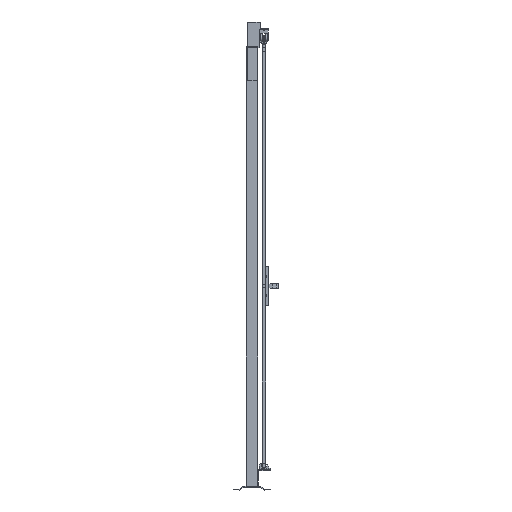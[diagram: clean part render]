
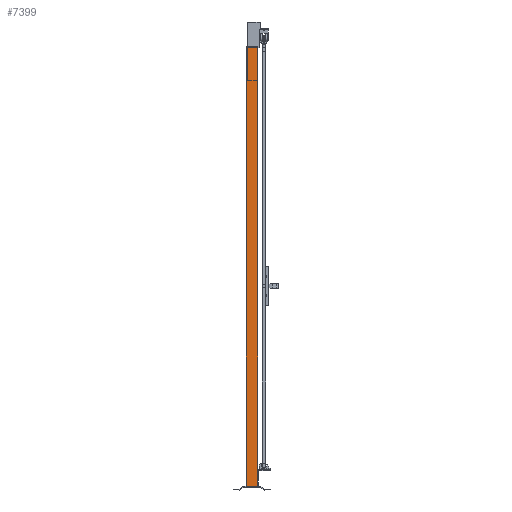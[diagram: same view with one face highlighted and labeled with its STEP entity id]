
A CAD part, left-side view. The second image highlights one B-rep face of the part: STEP entity #7399.
In plain terms, the highlighted planar face has unit normal (-1, 0, 0).
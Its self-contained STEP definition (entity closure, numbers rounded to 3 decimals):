
#629=FACE_OUTER_BOUND('',#1151,.T.);
#1151=EDGE_LOOP('',(#4390,#4391,#4392,#4393));
#1716=VERTEX_POINT('',#14724);
#1717=VERTEX_POINT('',#14726);
#1720=VERTEX_POINT('',#14733);
#1721=VERTEX_POINT('',#14735);
#2808=EDGE_CURVE('',#1716,#1717,#8349,.T.);
#2812=EDGE_CURVE('',#1720,#1721,#8353,.T.);
#2814=EDGE_CURVE('',#1717,#1720,#8355,.T.);
#2816=EDGE_CURVE('',#1716,#1721,#8357,.T.);
#4390=ORIENTED_EDGE('',*,*,#2816,.T.);
#4391=ORIENTED_EDGE('',*,*,#2812,.F.);
#4392=ORIENTED_EDGE('',*,*,#2814,.F.);
#4393=ORIENTED_EDGE('',*,*,#2808,.F.);
#6925=PLANE('',#10834);
#7399=ADVANCED_FACE('',(#629),#6925,.F.);
#8349=LINE('',#14727,#9642);
#8353=LINE('',#14736,#9646);
#8355=LINE('',#14739,#9648);
#8357=LINE('',#14742,#9650);
#9642=VECTOR('',#11794,1.);
#9646=VECTOR('',#11800,1.);
#9648=VECTOR('',#11804,1.);
#9650=VECTOR('',#11808,1.);
#10834=AXIS2_PLACEMENT_3D('',#14741,#11806,#11807);
#11794=DIRECTION('',(0.,-1.,0.));
#11800=DIRECTION('',(0.,1.,0.));
#11804=DIRECTION('',(0.,0.,-1.));
#11806=DIRECTION('center_axis',(1.,0.,0.));
#11807=DIRECTION('ref_axis',(0.,0.,-1.));
#11808=DIRECTION('',(0.,0.,-1.));
#14724=CARTESIAN_POINT('',(-30.,30.,2320.));
#14726=CARTESIAN_POINT('',(-30.,-30.,2320.));
#14727=CARTESIAN_POINT('',(-30.,0.,2320.));
#14733=CARTESIAN_POINT('',(-30.,-30.,20.));
#14735=CARTESIAN_POINT('',(-30.,30.,20.));
#14736=CARTESIAN_POINT('',(-30.,0.,20.));
#14739=CARTESIAN_POINT('',(-30.,-30.,1170.));
#14741=CARTESIAN_POINT('Origin',(-30.,0.,
1170.));
#14742=CARTESIAN_POINT('',(-30.,30.,1170.));
